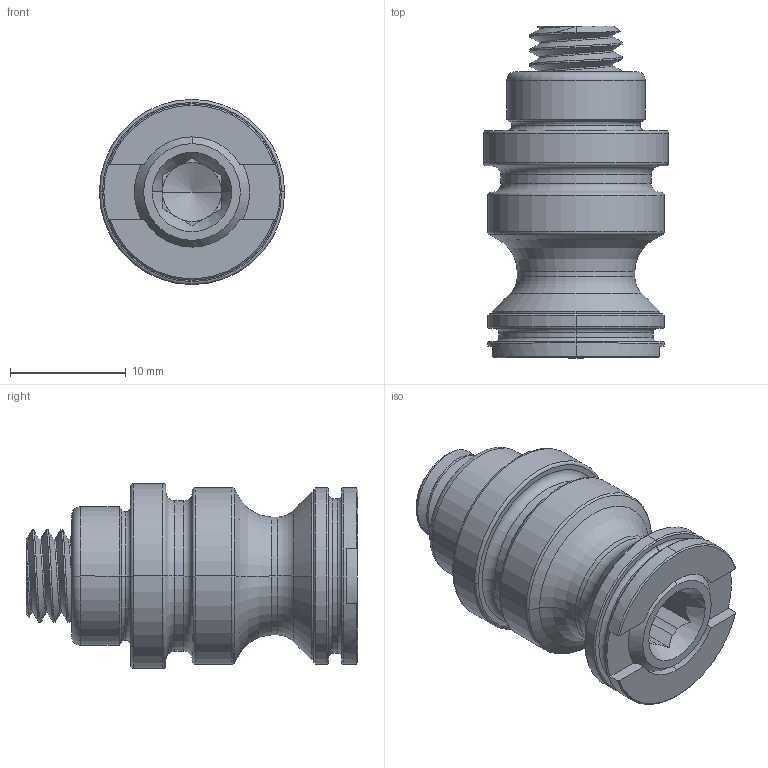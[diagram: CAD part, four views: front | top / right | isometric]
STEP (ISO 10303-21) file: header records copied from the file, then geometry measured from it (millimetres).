
FILE_DESCRIPTION (( 'STEP AP214' ), '1' );
FILE_NAME ('PS16F-PY.STEP', '2019-05-12T20:09:38', ( '' ), ( '' ), 'SwSTEP 2.0', 'SolidWorks 2018', '' );
FILE_SCHEMA (( 'AUTOMOTIVE_DESIGN' ));
Length unit declared in the file: millimetre
Products named in the file (4): HW.39858.CPSS_M8X1.25X20MM; PS16F-PY; RL52-PY
Assembly tree (3 placements, depth 2):
  PS16F-PY
    PS16F-PY
    RL52-PY
    HW.39858.CPSS_M8X1.25X20MM
Bounding box: 15.97 x 28.64 x 15.97 mm (x, y, z)
Volume: 3598.1 mm3; surface area: 3167.6 mm2
Topology: 3 solids, 3 shells, 174 faces, 420 edges, 251 vertices
Faces by surface type: cylinder 55, plane 47, cone 39, torus 30, bspline 3
Entity records: 7825 total; most frequent: CARTESIAN_POINT 3743, DIRECTION 832, ORIENTED_EDGE 824, EDGE_CURVE 412, AXIS2_PLACEMENT_3D 343, VERTEX_POINT 251, EDGE_LOOP 183, ADVANCED_FACE 174
